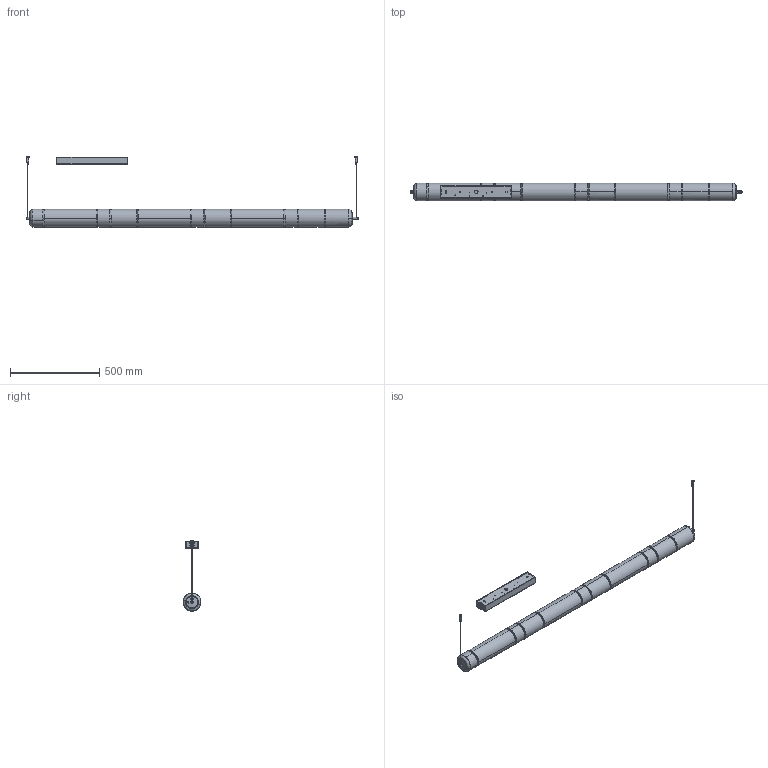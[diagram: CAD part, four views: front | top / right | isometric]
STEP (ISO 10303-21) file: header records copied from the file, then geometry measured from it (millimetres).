
FILE_DESCRIPTION(/* description */ (''),/* implementation_level */ '2;1');
FILE_NAME(/* name */ '00343MP9LD00CEPB - STACKING S 180 H GLASS EMEA',/* time_stamp */ '2023-09-27T17:44:14+02:00',/* author */ (''),/* organization */ (''),/* preprocessor_version */ 'ST-DEVELOPER v16.5',/* originating_system */ 'Rhino 7.27',/* authorisation */ '');
FILE_SCHEMA (('CONFIG_CONTROL_DESIGN'));
Length unit declared in the file: millimetre
Products named in the file (1): Document
Bounding box: 1860 x 100 x 393.5 mm (x, y, z)
Volume: 2850426.7 mm3; surface area: 2458795.1 mm2
Topology: 35 solids, 35 shells, 1178 faces, 2821 edges, 1824 vertices
Faces by surface type: plane 478, cylinder 377, bspline 323
Entity records: 42162 total; most frequent: CARTESIAN_POINT 23694, ORIENTED_EDGE 5610, EDGE_CURVE 2805, VERTEX_POINT 1824, EDGE_LOOP 1407, ADVANCED_FACE 1178, FACE_OUTER_BOUND 1178, B_SPLINE_CURVE_WITH_KNOTS 1177
